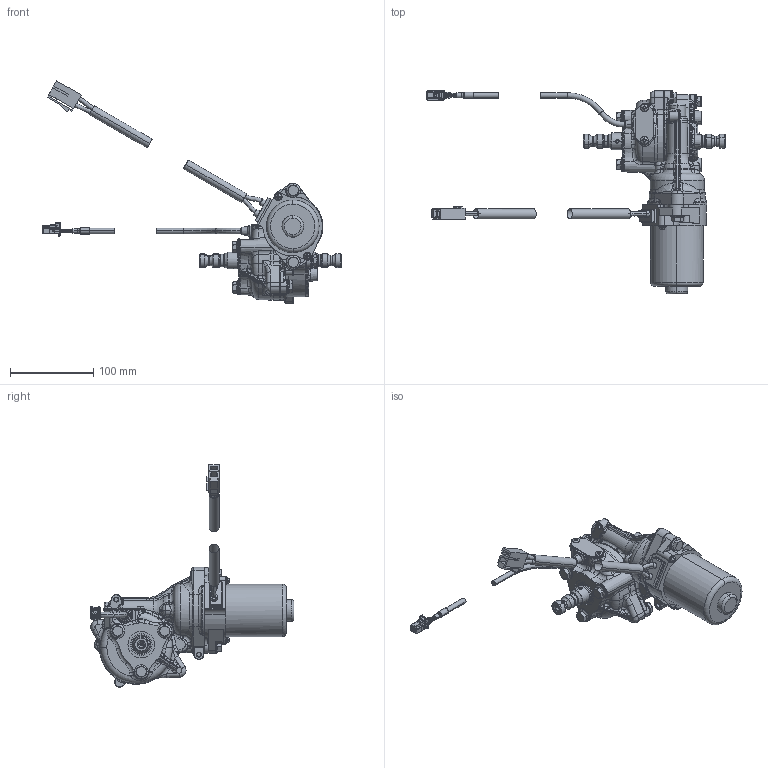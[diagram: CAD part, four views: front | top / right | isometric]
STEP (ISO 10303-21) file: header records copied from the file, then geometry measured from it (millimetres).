
FILE_DESCRIPTION(('CATIA V5 STEP Exchange','CAx-IF Rec.Pracs.--- Model Styling and Organization---1.5--- 2016-08-15','CAx-IF Rec.Pracs.---Supplemental Geometry---1.0---2011-11-01','CAx-IF Rec.Pracs.--- Composite Materials ---1.1---2010-07-15'),'2;1');
FILE_NAME('\\arj-synology-1\ARJ社内Project\市販用 C-EPS 小型\3Dデータ\CA20_ALL-PURPUSE_COLUMN_EPS_170W.stp','2026-03-06T11:10:24+00:00',('none'),('none'),'CATIA Version 5-6 Release 2023 SP5 HF3','CATIA V5 STEP AP214 v3','none');
FILE_SCHEMA(('AUTOMOTIVE_DESIGN { 1 0 10303 214 1 1 1 1 }'));
Length unit declared in the file: millimetre
Products named in the file (1): CA20_ALL-PURPUSE_COLUMN_EPS_170W
Bounding box: 357.81 x 244.43 x 266.4 mm (x, y, z)
Volume: 1077769.3 mm3; surface area: 121680.3 mm2
Topology: 7 solids, 13 shells, 2786 faces, 6982 edges, 4195 vertices
Faces by surface type: plane 1043, cylinder 546, bspline 450, torus 439, cone 230, sphere 78
Entity records: 102400 total; most frequent: CARTESIAN_POINT 46373, ORIENTED_EDGE 13770, DIRECTION 7946, EDGE_CURVE 6895, VERTEX_POINT 4195, AXIS2_PLACEMENT_3D 3444, VECTOR 2986, LINE 2986
